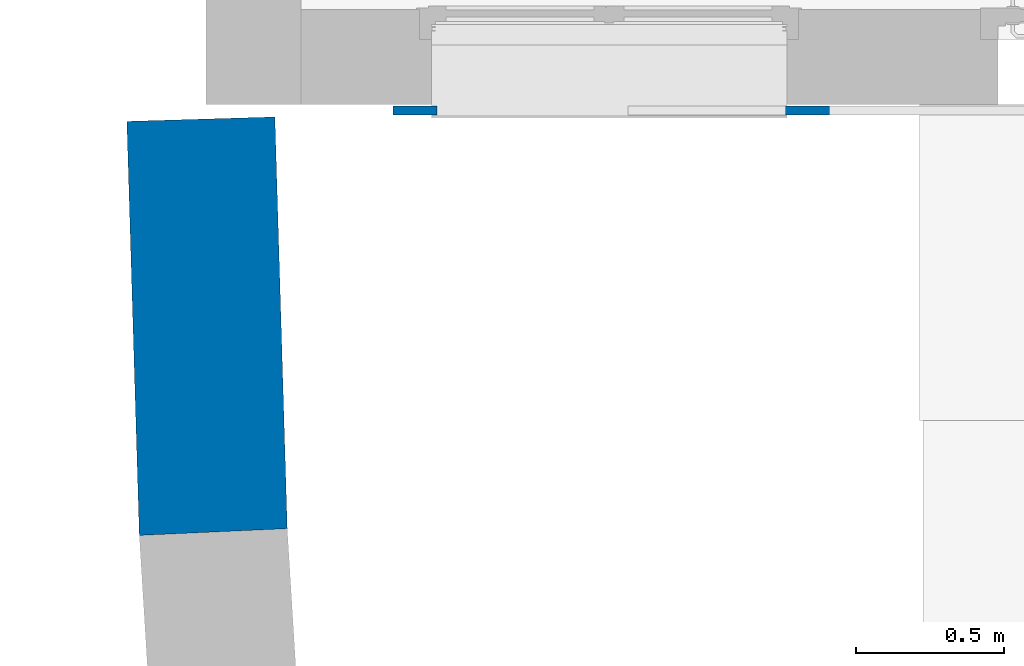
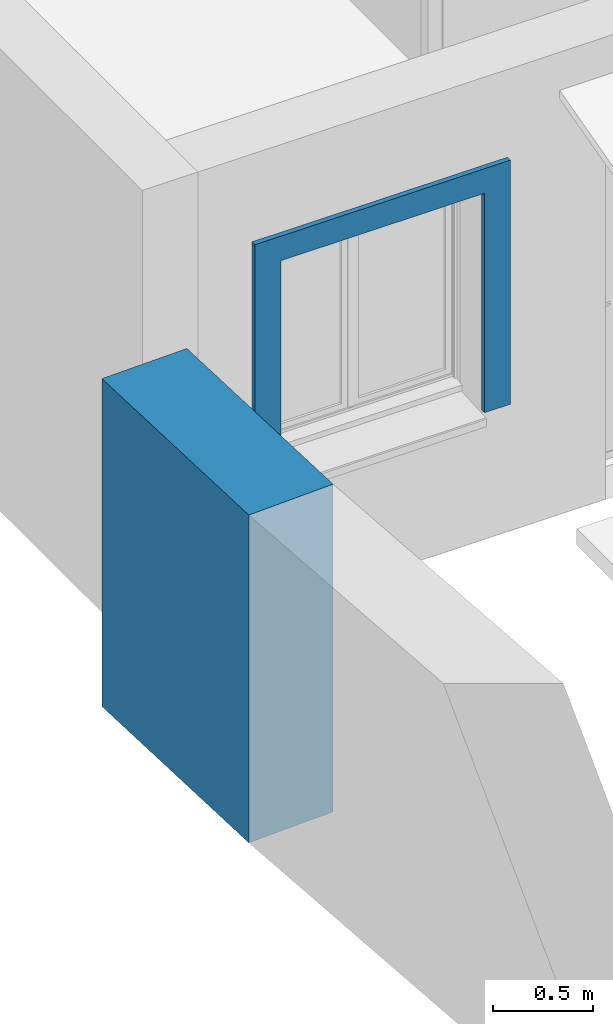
# One storey, part 3 of 33: 2 walls, 1 opening.
"""IFC2X3 building model written with IfcOpenShell, lengths in metres."""

import ifcopenshell
import ifcopenshell.guid

model = None  # the IFC model being written
_history = None  # IfcOwnerHistory: only IFC2X3 demands one
_inside = {}  # id of a spatial element -> (the spatial element, [elements in it])
_under = {}  # id of a project, library or spatial element -> (it, [spatial elements below it])
_declared = {}  # id of a project -> (the project, [libraries it declares])
_typed = {}  # id of a type object -> (the type object, [elements of that type])
_made_of = {}  # id of a material, layer set ... -> (it, [elements and type objects made of it])


def new_model(schema):
    """Start an empty IFC model of exactly this schema.

    Asked for "IFC4X3", IfcOpenShell would pick the latest addendum, in which some entities
    have other attributes; the version numbers below select the first issue.
    IFC2X3 requires an IfcOwnerHistory on every rooted entity: one is made here for all.
    """
    global model, _history
    if schema == "IFC4X3":
        model = ifcopenshell.file(schema_version=(4, 3, 0, 0))
    else:
        model = ifcopenshell.file(schema=schema)
    _inside.clear()
    _under.clear()
    _declared.clear()
    _typed.clear()
    _made_of.clear()
    _history = None
    if model.schema == "IFC2X3":
        org = make("IfcOrganization", Name="unknown")
        user = make(
            "IfcPersonAndOrganization",
            ThePerson=make("IfcPerson", FamilyName="unknown"),
            TheOrganization=org,
        )
        app = make(
            "IfcApplication",
            ApplicationDeveloper=org,
            Version="unknown",
            ApplicationFullName="unknown",
            ApplicationIdentifier="unknown",
        )
        _history = make(
            "IfcOwnerHistory",
            OwningUser=user,
            OwningApplication=app,
            ChangeAction="ADDED",
            CreationDate=0,
        )
    return model


def make(cls, **values):
    """One entity of the class cls with the attributes given. An attribute that is None is left unset."""
    return model.create_entity(
        cls, **{name: value for name, value in values.items() if value is not None}
    )


def entity(cls, *values):
    """Any entity or typed value of the class cls, its attributes in the order of the schema. None: left unset."""
    e = model.create_entity(cls)
    for i, value in enumerate(values):
        if value is not None:
            e[i] = value
    return e


def rooted(cls, **values):
    """An entity with a GlobalId (a new one), such as an element, a storey or a relation."""
    return make(cls, GlobalId=ifcopenshell.guid.new(), OwnerHistory=_history, **values)


def si_unit(unit_type, name, prefix=None):
    """IfcSIUnit, for example si_unit("LENGTHUNIT", "METRE", prefix="MILLI")."""
    return make("IfcSIUnit", UnitType=unit_type, Prefix=prefix, Name=name)


def converted_unit(unit_type, name, factor, base, dimensions=None, offset=None):
    """IfcConversionBasedUnit, such as the inch: factor (a typed value) times the base unit."""
    return make(
        "IfcConversionBasedUnit"
        if offset is None
        else "IfcConversionBasedUnitWithOffset",
        ConversionOffset=offset,
        Dimensions=None
        if dimensions is None
        else entity("IfcDimensionalExponents", *dimensions),
        UnitType=unit_type,
        Name=name,
        ConversionFactor=make(
            "IfcMeasureWithUnit", ValueComponent=factor, UnitComponent=base
        ),
    )


def derived_unit(unit_type, elements):
    """IfcDerivedUnit: a product of units, each with its exponent."""
    return make(
        "IfcDerivedUnit",
        Elements=[
            make("IfcDerivedUnitElement", Unit=unit, Exponent=power)
            for unit, power in elements
        ],
        UnitType=unit_type,
    )


def assignment(units):
    """IfcUnitAssignment: the units of a project."""
    return None if units is None else make("IfcUnitAssignment", Units=units)


def point(xyz):
    """IfcCartesianPoint."""
    return None if xyz is None else make("IfcCartesianPoint", Coordinates=xyz)


def direction(xyz):
    """IfcDirection."""
    return None if xyz is None else make("IfcDirection", DirectionRatios=xyz)


def frame(location, z_axis=None, x_axis=None):
    """IfcAxis2Placement3D, a coordinate frame: its origin and axes. An axis left out is left unset."""
    return make(
        "IfcAxis2Placement3D",
        Location=point(location),
        Axis=direction(z_axis),
        RefDirection=direction(x_axis),
    )


def frame_2d(location, x_axis=None):
    """IfcAxis2Placement2D, a coordinate frame in the plane: its origin and x axis."""
    return make(
        "IfcAxis2Placement2D", Location=point(location), RefDirection=direction(x_axis)
    )


def origin():
    """The frame at (0, 0, 0) with its axes left unset."""
    return frame((0.0, 0.0, 0.0))


def place(relative_to, where):
    """IfcLocalPlacement: puts the frame where relative to a parent placement (None: the world)."""
    return make(
        "IfcLocalPlacement", PlacementRelTo=relative_to, RelativePlacement=where
    )


def context(
    kind, dimensions, precision=None, world=None, true_north=None, identifier=None
):
    """IfcGeometricRepresentationContext, for example the 3D "Model" context."""
    return make(
        "IfcGeometricRepresentationContext",
        ContextIdentifier=identifier,
        ContextType=kind,
        CoordinateSpaceDimension=dimensions,
        Precision=precision,
        WorldCoordinateSystem=world,
        TrueNorth=true_north,
    )


def subcontext(parent, identifier, kind, view, scale=None):
    """IfcGeometricRepresentationSubContext, for example "Body" below "Model"."""
    return make(
        "IfcGeometricRepresentationSubContext",
        ContextIdentifier=identifier,
        ContextType=kind,
        ParentContext=parent,
        TargetScale=scale,
        TargetView=view,
    )


def project(units=None, contexts=None):
    """IfcProject with its units and contexts."""
    return rooted(
        "IfcProject",
        Name="project",
        RepresentationContexts=contexts,
        UnitsInContext=assignment(units),
    )


def spatial(cls, under=None, at=None, **own):
    """A site, building, storey or space (cls), placed at a placement, below another one or the project."""
    s = rooted(cls, ObjectPlacement=at, **own)
    if under is not None:
        _under.setdefault(under.id(), (under, []))[1].append(s)
    return s


def polyline(points):
    """IfcPolyline through the points."""
    return make("IfcPolyline", Points=[point(p) for p in points])


def profile(cls, at=None, kind="AREA", **sizes):
    """A parametric profile (cls). Its sizes go by their IFC names, for example OverallWidth=200.0."""
    return make(cls, ProfileType=kind, Position=at, **sizes)


def rectangle(**sizes):
    """IfcRectangleProfileDef."""
    return profile("IfcRectangleProfileDef", **sizes)


def outline(outer, holes=None, kind="AREA"):
    """IfcArbitraryClosedProfileDef: a profile drawn as a closed curve; with holes, ...WithVoids."""
    if holes is None:
        return make("IfcArbitraryClosedProfileDef", ProfileType=kind, OuterCurve=outer)
    return make(
        "IfcArbitraryProfileDefWithVoids",
        ProfileType=kind,
        OuterCurve=outer,
        InnerCurves=holes,
    )


def extrude(swept, where, along, depth):
    """IfcExtrudedAreaSolid: the profile swept, set in the frame where, extruded along a direction by depth."""
    return make(
        "IfcExtrudedAreaSolid",
        SweptArea=swept,
        Position=where,
        ExtrudedDirection=direction(along),
        Depth=depth,
    )


def shape(context_of_items, identifier, shape_type, items):
    """IfcShapeRepresentation: the items that make up one representation, for example the "Body"."""
    return make(
        "IfcShapeRepresentation",
        ContextOfItems=context_of_items,
        RepresentationIdentifier=identifier,
        RepresentationType=shape_type,
        Items=items,
    )


def material(Name=None, Category=None):
    """IfcMaterial."""
    return make("IfcMaterial", Name=Name, Category=Category)


def layer(
    of_material, thickness, ventilated=None, Name=None, Category=None, Priority=None
):
    """IfcMaterialLayer: one layer of a wall or slab, of a material (None: an air gap)."""
    return make(
        "IfcMaterialLayer",
        Material=of_material,
        LayerThickness=thickness,
        IsVentilated=ventilated,
        Name=Name,
        Category=Category,
        Priority=Priority,
    )


def layer_set(layers, Name=None):
    """IfcMaterialLayerSet."""
    return make("IfcMaterialLayerSet", MaterialLayers=layers, LayerSetName=Name)


def layer_usage(for_layer_set, set_direction, sense, offset, extent=None):
    """IfcMaterialLayerSetUsage: how a layer set lies in its element."""
    return make(
        "IfcMaterialLayerSetUsage",
        ForLayerSet=for_layer_set,
        LayerSetDirection=set_direction,
        DirectionSense=sense,
        OffsetFromReferenceLine=offset,
        ReferenceExtent=extent,
    )


def made_of(thing, what):
    """Note that an element or type object is made of a material, layer set ...; save() writes the relation."""
    if what is not None:
        _made_of.setdefault(what.id(), (what, []))[1].append(thing)
    return thing


def type_object(cls, material=None, **own):
    """A type object (cls), such as IfcWallType, which elements share."""
    return made_of(rooted(cls, **own), material)


def element(
    cls,
    number,
    at=None,
    inside=None,
    cuts=None,
    type_object=None,
    material=None,
    context=None,
    identifier="Body",
    shape_type=None,
    held_by="IfcProductDefinitionShape",
    body=None,
    shapes=None,
    **own,
):
    """One element of the class cls, such as IfcWall. Its Tag is "e" and its number.

    at: its placement. inside: the storey or other place that contains it. cuts: it is an
    opening in that element (IfcRelVoidsElement). A single representation is given by context,
    identifier, shape_type and body (its items); several are given by shapes. held_by: the class
    of the entity that holds the representations. save() writes the other relations.
    """
    e = rooted(cls, Tag="e%d" % number, ObjectPlacement=at, **own)
    if body is not None:
        shapes = [shape(context, identifier, shape_type, body)]
    if shapes is not None:
        e.Representation = make(held_by, Representations=shapes)
    if inside is not None:
        _inside.setdefault(inside.id(), (inside, []))[1].append(e)
    if cuts is not None:
        rooted(
            "IfcRelVoidsElement", RelatingBuildingElement=cuts, RelatedOpeningElement=e
        )
    if type_object is not None:
        _typed.setdefault(type_object.id(), (type_object, []))[1].append(e)
    return made_of(e, material)


def aggregate(whole, parts):
    """IfcRelAggregates: a whole, such as a stair, and the parts it consists of."""
    return rooted("IfcRelAggregates", RelatingObject=whole, RelatedObjects=parts)


def save(model, path):
    """Write the relations noted so far, then the file.

    IfcRelAggregates (storeys below a building ...), IfcRelContainedInSpatialStructure (elements
    in a storey), IfcRelDefinesByType, IfcRelAssociatesMaterial and IfcRelDeclares: one each for
    every whole, place, type object, material and project.
    """
    for whole, parts in _under.values():
        aggregate(whole, parts)
    for where, things in _inside.values():
        rooted(
            "IfcRelContainedInSpatialStructure",
            RelatedElements=things,
            RelatingStructure=where,
        )
    for kind, things in _typed.values():
        rooted("IfcRelDefinesByType", RelatedObjects=things, RelatingType=kind)
    for what, things in _made_of.values():
        rooted("IfcRelAssociatesMaterial", RelatedObjects=things, RelatingMaterial=what)
    for by, libraries in _declared.values():
        rooted("IfcRelDeclares", RelatingContext=by, RelatedDefinitions=libraries)
    model.write(path)


model = new_model("IFC2X3")

# Units and contexts
model_context = context("Model", 3, precision=1e-05, world=origin(), true_north=direction((6.12303176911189e-17, 1.0)))
context_of_model = context(None, 3, precision=1e-05, world=origin(), true_north=direction((6.12303176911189e-17, 1.0)))
body_context = subcontext(model_context, "Body", "Model", "MODEL_VIEW")
ifc_project = project(units=[si_unit("LENGTHUNIT", "METRE"), si_unit("AREAUNIT", "SQUARE_METRE"), si_unit("VOLUMEUNIT", "CUBIC_METRE"), converted_unit("PLANEANGLEUNIT", "DEGREE", entity("IfcRatioMeasure", 0.0174532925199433), si_unit("PLANEANGLEUNIT", "RADIAN"), dimensions=[0, 0, 0, 0, 0, 0, 0]), si_unit("MASSUNIT", "GRAM", prefix="KILO"), si_unit("TIMEUNIT", "SECOND"), si_unit("FREQUENCYUNIT", "HERTZ"), si_unit("THERMODYNAMICTEMPERATUREUNIT", "DEGREE_CELSIUS"), derived_unit("THERMALTRANSMITTANCEUNIT", [(si_unit("MASSUNIT", "GRAM", prefix="KILO"), 1), (si_unit("THERMODYNAMICTEMPERATUREUNIT", "KELVIN"), -1), (si_unit("TIMEUNIT", "SECOND"), -3)]), derived_unit("VOLUMETRICFLOWRATEUNIT", [(si_unit("LENGTHUNIT", "METRE"), 3), (si_unit("TIMEUNIT", "SECOND"), -1)]), si_unit("ELECTRICCURRENTUNIT", "AMPERE"), si_unit("ELECTRICVOLTAGEUNIT", "VOLT"), si_unit("POWERUNIT", "WATT"), si_unit("FORCEUNIT", "NEWTON", prefix="KILO"), si_unit("ILLUMINANCEUNIT", "LUX"), si_unit("LUMINOUSFLUXUNIT", "LUMEN"), si_unit("LUMINOUSINTENSITYUNIT", "CANDELA"), si_unit("PRESSUREUNIT", "PASCAL")], contexts=[model_context, context_of_model])

# Site, building, storey
site_placement = place(None, origin())
site = spatial("IfcSite", under=ifc_project, at=site_placement, Name="Surface", CompositionType="ELEMENT")
building_placement = place(site_placement, origin())
building = spatial("IfcBuilding", under=site, at=building_placement, CompositionType="ELEMENT")
storey_placement = place(building_placement, origin())
storey = spatial("IfcBuildingStorey", under=building, at=storey_placement, Name="Plan des fondations  Maisons 1 et 2", CompositionType="ELEMENT", Elevation=0.0)

# Wall, opening
ifc_material_1 = material(Name="Enduit blanc cassé")
ifc_layer_1 = layer(ifc_material_1, 0.01)
ifc_material_2 = material(Name="Parpaing")
ifc_layer_2 = layer(ifc_material_2, 0.01)
ifc_layer_3 = layer(ifc_material_1, 0.01)
ifc_layer_set_1 = layer_set([ifc_layer_1, ifc_layer_2, ifc_layer_3], Name="Mur de base:modénateurs ep 2 cm gris")
ifc_layer_usage_1 = layer_usage(ifc_layer_set_1, "AXIS2", "POSITIVE", -0.015)
wall_type_1 = type_object("IfcWallType", Name="Mur de base:modénateurs ep 2 cm gris", PredefinedType="STANDARD", material=ifc_layer_set_1)
wall_1_placement = place(storey_placement, frame((63.4913634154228, 79.8677566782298, 0.799999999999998), z_axis=(0.0, 0.0, 1.0), x_axis=(-1.0, 0.0, 0.0)))
wall_1 = element("IfcWallStandardCase", 1, at=wall_1_placement, inside=storey, type_object=wall_type_1, material=ifc_layer_usage_1, Name="Mur de base:modénateurs ep 2 cm gris", ObjectType="Mur de base:modénateurs ep 2 cm gris", context=body_context, shape_type="SweptSolid", body=[
    extrude(rectangle(XDim=1.47499999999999, YDim=0.0299999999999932, at=frame_2d((0.737499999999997, 3.8068506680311e-15), x_axis=(-1.0, 0.0))), origin(), (0.0, 0.0, 1.0), 1.48912543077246),
])
opening_placement = place(wall_1_placement, origin())
element("IfcOpeningElement", 2, at=opening_placement, cuts=wall_1, Name="Mur de base:modénateurs ep 2 cm gris", ObjectType="Opening", context=body_context, shape_type="SweptSolid", body=[
    extrude(rectangle(XDim=1.33912543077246, YDim=1.17499999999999, at=frame_2d((0.0, 0.0), x_axis=(0.0, 1.0))), frame((0.737499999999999, 0.0149999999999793, 0.669562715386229), z_axis=(0.0, -1.0, 0.0), x_axis=(1.0, 0.0, 0.0)), (0.0, 0.0, 1.0), 0.03),
])

# Wall
ifc_material_3 = material(Name="Mur par défaut")
ifc_layer_4 = layer(ifc_material_3, 0.5)
ifc_layer_set_2 = layer_set([ifc_layer_4], Name="Mur de base:Mur exterieure en pierre - Ext. 500 MM")
ifc_layer_usage_2 = layer_usage(ifc_layer_set_2, "AXIS2", "NEGATIVE", 0.25)
wall_type_2 = type_object("IfcWallType", Name="Mur de base:Mur exterieure en pierre - Ext. 500 MM", PredefinedType="STANDARD", material=ifc_layer_set_2)
wall_2_placement = place(storey_placement, frame((61.368565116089, 79.838012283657, -0.2), z_axis=(0.0, 0.0, 1.0), x_axis=(0.0300443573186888, -0.999548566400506, 0.0)))
element("IfcWallStandardCase", 3, at=wall_2_placement, inside=storey, type_object=wall_type_2, material=ifc_layer_usage_2, Name="Mur de base:Mur exterieure en pierre - Ext. 500 MM", ObjectType="Mur de base:Mur exterieure en pierre - Ext. 500 MM", context=body_context, shape_type="SweptSolid", body=[
    extrude(outline(polyline([(1.39836733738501, -0.250000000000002), (1.39049524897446, 0.249999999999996), (0.0, 0.250000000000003), (0.0, -0.249999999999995), (1.39836733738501, -0.250000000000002)])), origin(), (0.0, 0.0, 1.0), 2.0),
])

save(model, "model.ifc")
